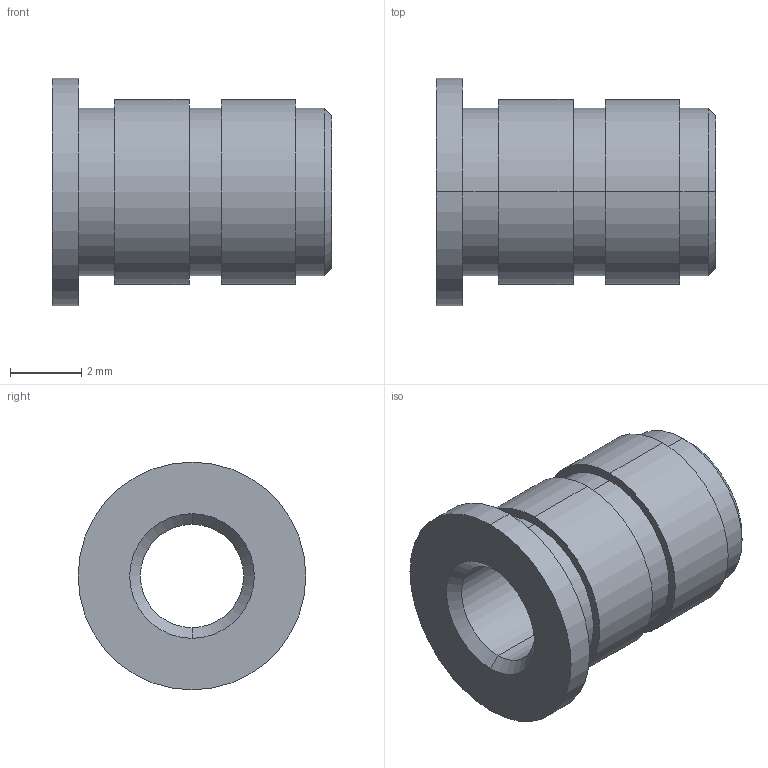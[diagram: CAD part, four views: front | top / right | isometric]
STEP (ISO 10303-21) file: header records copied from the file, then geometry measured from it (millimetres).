
FILE_DESCRIPTION (( 'STEP AP203' ), '1' );
FILE_NAME ('FSUK-HIHLH-M03.5-S.STEP', '2021-04-15T12:55:22', ( '' ), ( '' ), 'SwSTEP 2.0', 'SolidWorks 2021', '' );
FILE_SCHEMA (( 'CONFIG_CONTROL_DESIGN' ));
Length unit declared in the file: millimetre
Products named in the file (1): FSUK-HIHLH-M03.5-S
Bounding box: 7.84 x 6.4 x 6.4 mm (x, y, z)
Volume: 110.4 mm3; surface area: 259.7 mm2
Topology: 1 solids, 1 shells, 27 faces, 54 edges, 34 vertices
Faces by surface type: cylinder 14, plane 7, cone 6
Entity records: 795 total; most frequent: DIRECTION 144, CARTESIAN_POINT 116, ORIENTED_EDGE 108, AXIS2_PLACEMENT_3D 62, EDGE_CURVE 54, VERTEX_POINT 34, EDGE_LOOP 34, CIRCLE 34
